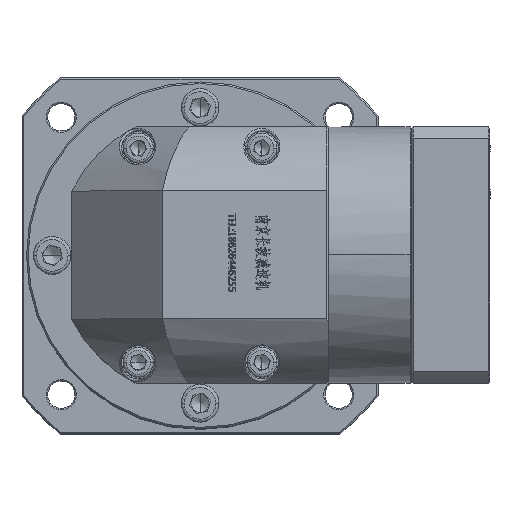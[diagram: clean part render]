
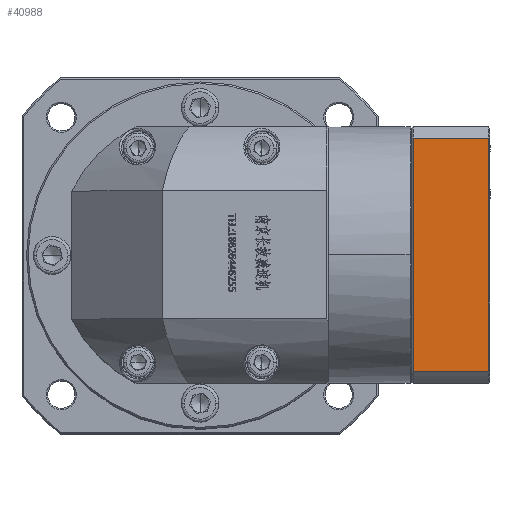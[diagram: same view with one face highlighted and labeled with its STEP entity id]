
A CAD part, top view. The second image highlights one B-rep face of the part: STEP entity #40988.
In plain terms, the highlighted planar face has unit normal (0, 0, 1).
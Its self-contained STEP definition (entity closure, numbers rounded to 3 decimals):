
#8381 = ORIENTED_EDGE ( 'NONE', *, *, #133447, .T. ) ;
#16270 = DIRECTION ( 'NONE',  ( 1., 0., 0. ) ) ;
#17343 = DIRECTION ( 'NONE',  ( -1., 0., 0. ) ) ;
#21794 = VERTEX_POINT ( 'NONE', #156168 ) ;
#27025 = EDGE_LOOP ( 'NONE', ( #8381, #115492, #52994, #34061 ) ) ;
#29109 = CARTESIAN_POINT ( 'NONE',  ( 116.284, 90.925, 6.465 ) ) ;
#31477 = VECTOR ( 'NONE', #53695, 1000. ) ;
#31970 = CARTESIAN_POINT ( 'NONE',  ( 91.284, 168.385, 6.465 ) ) ;
#34061 = ORIENTED_EDGE ( 'NONE', *, *, #117558, .F. ) ;
#40988 = ADVANCED_FACE ( 'NONE', ( #43122 ), #140405, .F. ) ;
#42986 = CARTESIAN_POINT ( 'NONE',  ( 116.784, 168.385, 6.465 ) ) ;
#43122 = FACE_OUTER_BOUND ( 'NONE', #27025, .T. ) ;
#46447 = DIRECTION ( 'NONE',  ( 0., 1., 0. ) ) ;
#52994 = ORIENTED_EDGE ( 'NONE', *, *, #134755, .F. ) ;
#53695 = DIRECTION ( 'NONE',  ( 0., -1., 0. ) ) ;
#57786 = CARTESIAN_POINT ( 'NONE',  ( 116.284, 168.385, 6.465 ) ) ;
#58901 = CARTESIAN_POINT ( 'NONE',  ( 116.784, 87.155, 6.465 ) ) ;
#71959 = LINE ( 'NONE', #98767, #146581 ) ;
#75939 = AXIS2_PLACEMENT_3D ( 'NONE', #58901, #155235, #46447 ) ;
#78699 = LINE ( 'NONE', #145617, #110631 ) ;
#79550 = DIRECTION ( 'NONE',  ( 0., -1., 0. ) ) ;
#98767 = CARTESIAN_POINT ( 'NONE',  ( -73.477, 90.925, 6.465 ) ) ;
#110631 = VECTOR ( 'NONE', #79550, 1000. ) ;
#115492 = ORIENTED_EDGE ( 'NONE', *, *, #153510, .F. ) ;
#117558 = EDGE_CURVE ( 'NONE', #139684, #149079, #161966, .T. ) ;
#117940 = VERTEX_POINT ( 'NONE', #29109 ) ;
#133447 = EDGE_CURVE ( 'NONE', #139684, #21794, #78699, .T. ) ;
#134047 = CARTESIAN_POINT ( 'NONE',  ( 116.284, 87.155, 6.465 ) ) ;
#134755 = EDGE_CURVE ( 'NONE', #149079, #117940, #173956, .T. ) ;
#139684 = VERTEX_POINT ( 'NONE', #31970 ) ;
#140405 = PLANE ( 'NONE',  #75939 ) ;
#145617 = CARTESIAN_POINT ( 'NONE',  ( 91.284, 87.155, 6.465 ) ) ;
#146581 = VECTOR ( 'NONE', #17343, 1000. ) ;
#149079 = VERTEX_POINT ( 'NONE', #57786 ) ;
#153510 = EDGE_CURVE ( 'NONE', #117940, #21794, #71959, .T. ) ;
#155235 = DIRECTION ( 'NONE',  ( 0., 0., -1. ) ) ;
#156168 = CARTESIAN_POINT ( 'NONE',  ( 91.284, 90.925, 6.465 ) ) ;
#157670 = VECTOR ( 'NONE', #16270, 1000. ) ;
#161966 = LINE ( 'NONE', #42986, #157670 ) ;
#173956 = LINE ( 'NONE', #134047, #31477 ) ;
